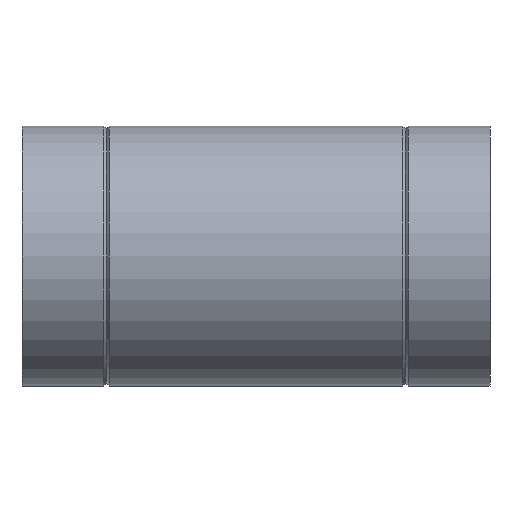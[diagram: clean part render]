
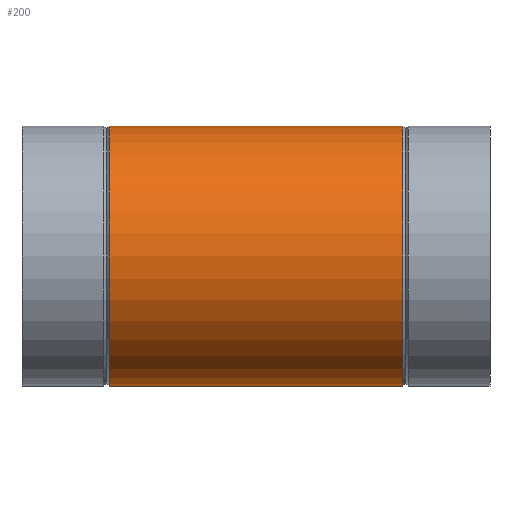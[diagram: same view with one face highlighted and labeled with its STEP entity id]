
A CAD part, left-side view. The second image highlights one B-rep face of the part: STEP entity #200.
In plain terms, the highlighted cylindrical face has radius 100 mm (diameter 200 mm), a full revolution.
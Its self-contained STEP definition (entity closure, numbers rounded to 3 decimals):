
#15=B_SPLINE_CURVE_WITH_KNOTS($,3,(#325,#326,#327,#328,#329,#330,#331,#332,
#333,#334,#335,#336,#337,#338,#339,#340,#341,#342,#343,#344,#345,#346,#347,
#348,#349,#350,#351,#352,#353,#354,#355,#356,#357,#358,#359,#360,#361,#362,
#363,#364,#365,#366,#367,#368,#369,#370,#371,#372,#373,#374,#375,#376,#377,
#378,#379,#380,#381,#382,#383,#384,#385,#386,#387,#388,#389,#390),
 .UNSPECIFIED.,.T.,.F.,(4,2,2,2,2,2,2,2,2,2,2,2,2,2,2,2,2,2,2,2,2,2,2,2,
2,2,2,2,2,2,2,2,4),(0.,1.232,2.465,3.697,
4.93,6.144,7.358,8.572,9.786,
11.,12.214,13.428,14.643,15.875,
17.107,18.34,19.572,20.787,22.002,
23.217,24.432,25.646,26.859,28.072,
29.285,30.498,31.711,32.924,34.137,
35.352,36.568,37.783,38.998),
 .UNSPECIFIED.);
#17=CYLINDRICAL_SURFACE($,#222,100.);
#26=FACE_BOUND($,#63,.T.);
#27=FACE_BOUND($,#64,.T.);
#48=FACE_OUTER_BOUND($,#62,.T.);
#62=EDGE_LOOP($,(#145));
#63=EDGE_LOOP($,(#146));
#64=EDGE_LOOP($,(#147));
#94=CIRCLE($,#221,100.);
#95=CIRCLE($,#223,100.);
#109=VERTEX_POINT($,#319);
#110=VERTEX_POINT($,#322);
#111=VERTEX_POINT($,#324);
#126=EDGE_CURVE($,#109,#109,#94,.T.);
#127=EDGE_CURVE($,#110,#110,#95,.T.);
#128=EDGE_CURVE($,#111,#111,#15,.T.);
#145=ORIENTED_EDGE($,*,*,#127,.T.);
#146=ORIENTED_EDGE($,*,*,#128,.T.);
#147=ORIENTED_EDGE($,*,*,#126,.T.);
#200=ADVANCED_FACE($,(#48,#26,#27),#17,.T.);
#221=AXIS2_PLACEMENT_3D($,#320,#258,#259);
#222=AXIS2_PLACEMENT_3D($,#321,#260,#261);
#223=AXIS2_PLACEMENT_3D($,#323,#262,#263);
#258=DIRECTION('center_axis',(0.,-1.,0.));
#259=DIRECTION('ref_axis',(1.,0.,0.));
#260=DIRECTION('center_axis',(0.,1.,0.));
#261=DIRECTION('ref_axis',(1.,0.,0.));
#262=DIRECTION('center_axis',(0.,1.,0.));
#263=DIRECTION('ref_axis',(1.,0.,0.));
#319=CARTESIAN_POINT('',(100.,293.,0.));
#320=CARTESIAN_POINT('Origin',(0.,293.,0.));
#321=CARTESIAN_POINT('Origin',(0.,0.,0.));
#322=CARTESIAN_POINT('',(-100.,67.,0.));
#323=CARTESIAN_POINT('Origin',(0.,67.,0.));
#324=CARTESIAN_POINT('',(78.062,182.044,62.5));
#325=CARTESIAN_POINT('Ctrl Pts',(78.062,182.044,62.5));
#326=CARTESIAN_POINT('Ctrl Pts',(78.062,186.152,62.5));
#327=CARTESIAN_POINT('Ctrl Pts',(78.396,190.339,62.09));
#328=CARTESIAN_POINT('Ctrl Pts',(79.68,198.572,60.433));
#329=CARTESIAN_POINT('Ctrl Pts',(80.627,202.619,59.188));
#330=CARTESIAN_POINT('Ctrl Pts',(82.901,210.327,55.958));
#331=CARTESIAN_POINT('Ctrl Pts',(84.228,213.996,53.97));
#332=CARTESIAN_POINT('Ctrl Pts',(86.978,220.772,49.415));
#333=CARTESIAN_POINT('Ctrl Pts',(88.401,223.881,46.846));
#334=CARTESIAN_POINT('Ctrl Pts',(91.067,229.357,41.423));
#335=CARTESIAN_POINT('Ctrl Pts',(92.413,231.935,38.373));
#336=CARTESIAN_POINT('Ctrl Pts',(94.914,236.527,31.687));
#337=CARTESIAN_POINT('Ctrl Pts',(96.067,238.541,28.049));
#338=CARTESIAN_POINT('Ctrl Pts',(97.978,241.811,20.393));
#339=CARTESIAN_POINT('Ctrl Pts',(98.737,243.069,16.367));
#340=CARTESIAN_POINT('Ctrl Pts',(99.749,244.734,8.194));
#341=CARTESIAN_POINT('Ctrl Pts',(100.,245.14,4.047));
#342=CARTESIAN_POINT('Ctrl Pts',(100.,245.14,-4.047));
#343=CARTESIAN_POINT('Ctrl Pts',(99.749,244.734,-8.194));
#344=CARTESIAN_POINT('Ctrl Pts',(98.737,243.069,-16.367));
#345=CARTESIAN_POINT('Ctrl Pts',(97.978,241.811,-20.393));
#346=CARTESIAN_POINT('Ctrl Pts',(96.067,238.541,-28.049));
#347=CARTESIAN_POINT('Ctrl Pts',(94.914,236.527,-31.687));
#348=CARTESIAN_POINT('Ctrl Pts',(92.413,231.935,-38.373));
#349=CARTESIAN_POINT('Ctrl Pts',(91.067,229.357,-41.423));
#350=CARTESIAN_POINT('Ctrl Pts',(88.401,223.881,-46.846));
#351=CARTESIAN_POINT('Ctrl Pts',(86.978,220.772,-49.415));
#352=CARTESIAN_POINT('Ctrl Pts',(84.228,213.996,-53.97));
#353=CARTESIAN_POINT('Ctrl Pts',(82.901,210.327,-55.958));
#354=CARTESIAN_POINT('Ctrl Pts',(80.627,202.619,-59.188));
#355=CARTESIAN_POINT('Ctrl Pts',(79.68,198.572,-60.433));
#356=CARTESIAN_POINT('Ctrl Pts',(78.396,190.339,-62.09));
#357=CARTESIAN_POINT('Ctrl Pts',(78.062,186.152,-62.5));
#358=CARTESIAN_POINT('Ctrl Pts',(78.062,177.994,-62.5));
#359=CARTESIAN_POINT('Ctrl Pts',(78.387,173.864,-62.101));
#360=CARTESIAN_POINT('Ctrl Pts',(79.651,165.747,-60.471));
#361=CARTESIAN_POINT('Ctrl Pts',(80.587,161.76,-59.241));
#362=CARTESIAN_POINT('Ctrl Pts',(82.845,154.18,-56.041));
#363=CARTESIAN_POINT('Ctrl Pts',(84.165,150.579,-54.067));
#364=CARTESIAN_POINT('Ctrl Pts',(86.908,143.941,-49.539));
#365=CARTESIAN_POINT('Ctrl Pts',(88.327,140.904,-46.984));
#366=CARTESIAN_POINT('Ctrl Pts',(91.006,135.528,-41.558));
#367=CARTESIAN_POINT('Ctrl Pts',(92.367,132.991,-38.488));
#368=CARTESIAN_POINT('Ctrl Pts',(94.89,128.485,-31.761));
#369=CARTESIAN_POINT('Ctrl Pts',(96.051,126.516,-28.105));
#370=CARTESIAN_POINT('Ctrl Pts',(97.973,123.327,-20.418));
#371=CARTESIAN_POINT('Ctrl Pts',(98.736,122.105,-16.38));
#372=CARTESIAN_POINT('Ctrl Pts',(99.749,120.49,-8.193));
#373=CARTESIAN_POINT('Ctrl Pts',(100.,120.097,-4.044));
#374=CARTESIAN_POINT('Ctrl Pts',(100.,120.097,4.044));
#375=CARTESIAN_POINT('Ctrl Pts',(99.749,120.49,8.193));
#376=CARTESIAN_POINT('Ctrl Pts',(98.736,122.105,16.38));
#377=CARTESIAN_POINT('Ctrl Pts',(97.973,123.327,20.418));
#378=CARTESIAN_POINT('Ctrl Pts',(96.051,126.516,28.105));
#379=CARTESIAN_POINT('Ctrl Pts',(94.89,128.485,31.761));
#380=CARTESIAN_POINT('Ctrl Pts',(92.367,132.991,38.488));
#381=CARTESIAN_POINT('Ctrl Pts',(91.006,135.528,41.558));
#382=CARTESIAN_POINT('Ctrl Pts',(88.327,140.904,46.984));
#383=CARTESIAN_POINT('Ctrl Pts',(86.908,143.941,49.539));
#384=CARTESIAN_POINT('Ctrl Pts',(84.165,150.579,54.067));
#385=CARTESIAN_POINT('Ctrl Pts',(82.845,154.18,56.041));
#386=CARTESIAN_POINT('Ctrl Pts',(80.587,161.76,59.241));
#387=CARTESIAN_POINT('Ctrl Pts',(79.651,165.747,60.471));
#388=CARTESIAN_POINT('Ctrl Pts',(78.387,173.864,62.101));
#389=CARTESIAN_POINT('Ctrl Pts',(78.062,177.994,62.5));
#390=CARTESIAN_POINT('Ctrl Pts',(78.062,182.044,62.5));
